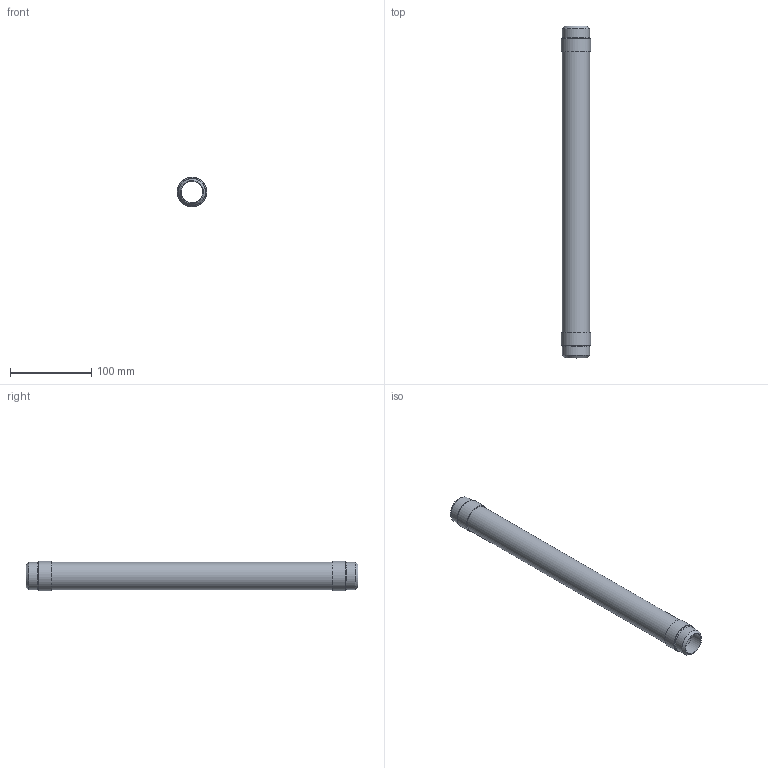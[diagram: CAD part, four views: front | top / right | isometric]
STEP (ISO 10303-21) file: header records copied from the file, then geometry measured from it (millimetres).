
FILE_DESCRIPTION(/* description */ (''),/* implementation_level */ '2;1');
FILE_NAME(/* name */ 'C:\001_Work\Designs\CSAWN\CSAWN-1x16.125.stp',/* time_stamp */ '2016-06-04T16:38:34-04:00',/* author */ ('rramoutar'),/* organization */ ('Mason Industries Inc.'),/* preprocessor_version */ 'ST-DEVELOPER v15.6',/* originating_system */ 'Autodesk Inventor 2015',/* authorisation */ '');
FILE_SCHEMA (('CONFIG_CONTROL_DESIGN'));
Length unit declared in the file: inch
Products named in the file (1): CSAWN-1x16.125
Bounding box: 36.01 x 409.57 x 36.01 mm (x, y, z)
Volume: 25720.3 mm3; surface area: 93958.6 mm2
Topology: 5 solids, 5 shells, 24 faces, 40 edges, 26 vertices
Faces by surface type: cylinder 10, plane 10, cone 4
Full cylindrical faces by diameter (mm): 26.645 x2, 33.02 x1, 33.401 x2, 33.63 x3, 36.011 x2
Entity records: 564 total; most frequent: DIRECTION 98, CARTESIAN_POINT 73, AXIS2_PLACEMENT_3D 49, EDGE_LOOP 48, ORIENTED_EDGE 48, STYLED_ITEM 29, FACE_BOUND 24, FACE_OUTER_BOUND 24
